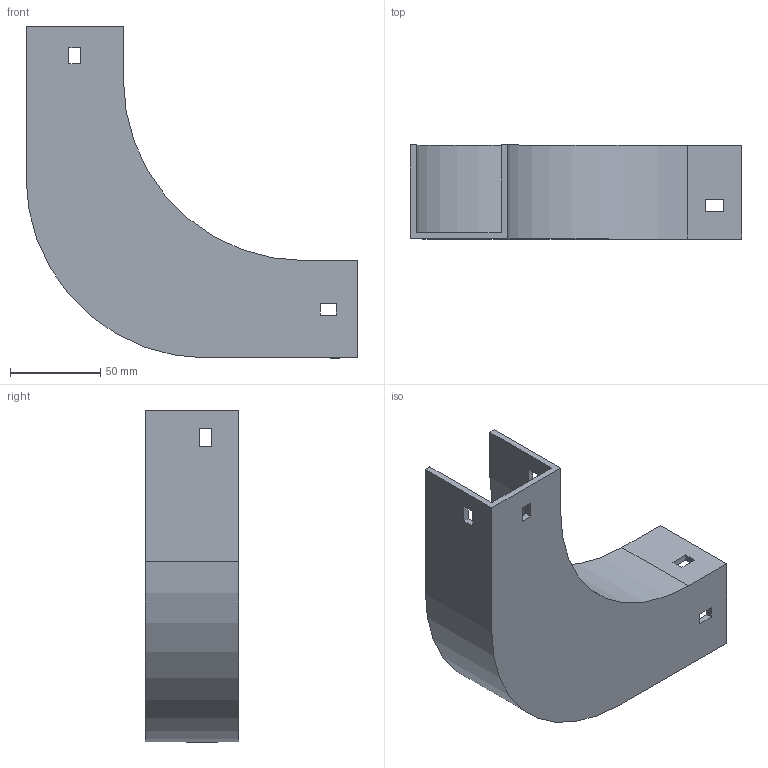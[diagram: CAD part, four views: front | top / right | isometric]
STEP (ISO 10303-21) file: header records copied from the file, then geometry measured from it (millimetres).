
FILE_DESCRIPTION (( 'STEP AP214' ), '1' );
FILE_NAME ('10F1B050.step', '2025-02-21T12:56:48', ( '' ), ( '' ), 'SwSTEP 2.0', 'SolidWorks 2023', '' );
FILE_SCHEMA (( 'AUTOMOTIVE_DESIGN' ));
Length unit declared in the file: millimetre
Products named in the file (1): 10F1B050
Bounding box: 184 x 52 x 184 mm (x, y, z)
Volume: 149988 mm3; surface area: 89355 mm2
Topology: 1 solids, 1 shells, 42 faces, 120 edges, 80 vertices
Faces by surface type: plane 38, cylinder 4
Entity records: 1399 total; most frequent: CARTESIAN_POINT 243, ORIENTED_EDGE 240, DIRECTION 214, EDGE_CURVE 120, LINE 112, VECTOR 112, VERTEX_POINT 80, EDGE_LOOP 54
